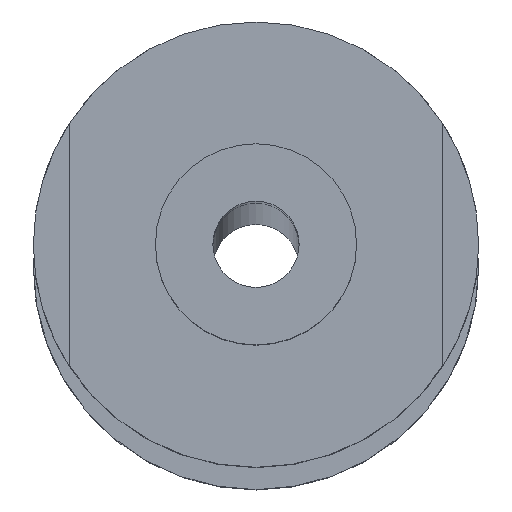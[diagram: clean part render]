
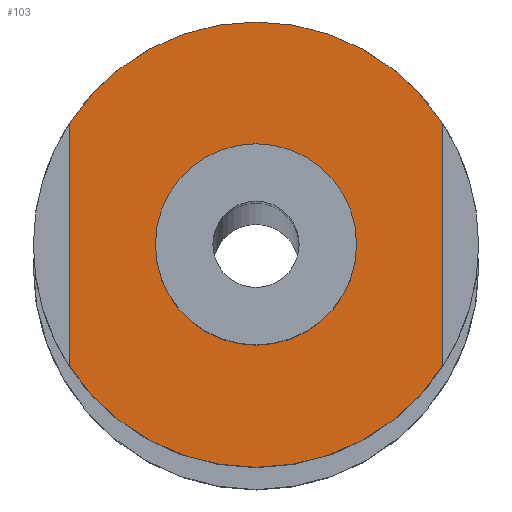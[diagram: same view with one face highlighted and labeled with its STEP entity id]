
A CAD part, top view. The second image highlights one B-rep face of the part: STEP entity #103.
In plain terms, the highlighted planar face has unit normal (0, 0, 1).
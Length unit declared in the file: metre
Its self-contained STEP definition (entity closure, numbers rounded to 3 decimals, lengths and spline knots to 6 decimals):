
#103=ADVANCED_FACE('0:72',(#208,#209),#210,.T.);
#208=FACE_OUTER_BOUND('',#334,.T.);
#209=FACE_BOUND('',#335,.T.);
#210=PLANE('',#336);
#334=EDGE_LOOP('',(#518,#519,#520,#521));
#335=EDGE_LOOP('',(#522,#523));
#336=AXIS2_PLACEMENT_3D('',#524,#525,#526);
#518=ORIENTED_EDGE('',*,*,#734,.F.);
#519=ORIENTED_EDGE('',*,*,#727,.F.);
#520=ORIENTED_EDGE('',*,*,#697,.F.);
#521=ORIENTED_EDGE('',*,*,#722,.T.);
#522=ORIENTED_EDGE('',*,*,#720,.F.);
#523=ORIENTED_EDGE('',*,*,#707,.F.);
#524=CARTESIAN_POINT('',(0.0,0.0,3.265));
#525=DIRECTION('',(0.0,0.0,1.0));
#526=DIRECTION('',(1.0,0.0,0.0));
#697=EDGE_CURVE('0:90',#832,#834,#835,.F.);
#707=EDGE_CURVE('',#849,#852,#853,.T.);
#720=EDGE_CURVE('0:111',#852,#849,#871,.T.);
#722=EDGE_CURVE('0:174',#832,#873,#874,.T.);
#727=EDGE_CURVE('0:183',#834,#881,#882,.F.);
#734=EDGE_CURVE('0:102',#881,#873,#889,.F.);
#832=VERTEX_POINT('',#1023);
#834=VERTEX_POINT('',#1026);
#835=CIRCLE('',#1027,0.0155);
#849=VERTEX_POINT('',#1044);
#852=VERTEX_POINT('',#1048);
#853=CIRCLE('',#1049,0.007);
#871=CIRCLE('',#1070,0.007);
#873=VERTEX_POINT('',#1072);
#874=LINE('',#1073,#1074);
#881=VERTEX_POINT('',#1084);
#882=LINE('',#1085,#1086);
#889=CIRCLE('',#1094,0.0155);
#1023=CARTESIAN_POINT('',(-0.013092,0.008536,3.265));
#1026=CARTESIAN_POINT('',(0.012908,0.008536,3.265));
#1027=AXIS2_PLACEMENT_3D('',#1231,#1232,#1233);
#1044=CARTESIAN_POINT('',(0.006908,0.000095,3.265));
#1048=CARTESIAN_POINT('',(-0.007092,0.000095,3.265));
#1049=AXIS2_PLACEMENT_3D('',#1247,#1248,#1249);
#1070=AXIS2_PLACEMENT_3D('',#1271,#1272,#1273);
#1072=CARTESIAN_POINT('',(-0.013092,-0.008346,3.265));
#1073=CARTESIAN_POINT('',(-0.013092,0.000048,3.265));
#1074=VECTOR('',#1274,1.0);
#1084=CARTESIAN_POINT('',(0.012908,-0.008346,3.265));
#1085=CARTESIAN_POINT('',(0.012908,0.000048,3.265));
#1086=VECTOR('',#1278,1.0);
#1094=AXIS2_PLACEMENT_3D('',#1289,#1290,#1291);
#1231=CARTESIAN_POINT('',(-0.000092,0.000095,3.265));
#1232=DIRECTION('',(0.0,0.0,1.0));
#1233=DIRECTION('',(1.0,0.0,0.0));
#1247=CARTESIAN_POINT('',(-0.000092,0.000095,3.265));
#1248=DIRECTION('',(0.0,0.0,1.0));
#1249=DIRECTION('',(1.0,0.0,-0.0));
#1271=CARTESIAN_POINT('',(-0.000092,0.000095,3.265));
#1272=DIRECTION('',(0.0,0.0,1.0));
#1273=DIRECTION('',(1.0,0.0,-0.0));
#1274=DIRECTION('',(0.,-1.0,0.0));
#1278=DIRECTION('',(0.,1.0,0.0));
#1289=CARTESIAN_POINT('',(-0.000092,0.000095,3.265));
#1290=DIRECTION('',(0.0,0.0,1.0));
#1291=DIRECTION('',(1.0,0.0,0.0));
